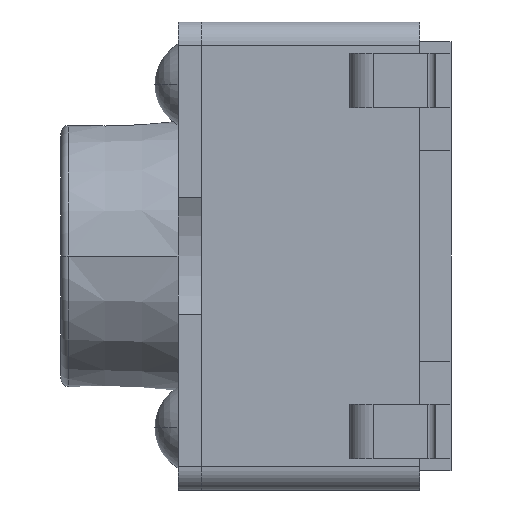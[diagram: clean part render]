
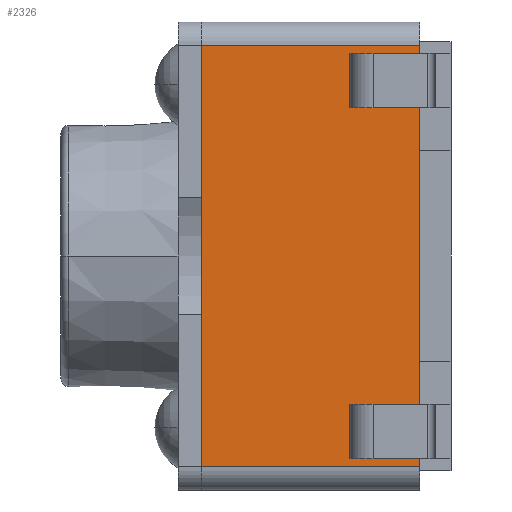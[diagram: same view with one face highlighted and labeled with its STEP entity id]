
A CAD part, left-side view. The second image highlights one B-rep face of the part: STEP entity #2326.
In plain terms, the highlighted planar face has unit normal (-1, 0, 0).
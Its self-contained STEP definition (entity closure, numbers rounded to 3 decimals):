
#50=DIRECTION('',(0.,0.,1.));
#51=VECTOR('',#50,5.4);
#52=CARTESIAN_POINT('',(-3.,0.4,-2.7));
#53=LINE('',#52,#51);
#157=DIRECTION('',(0.,-1.,0.));
#158=VECTOR('',#157,2.8);
#159=CARTESIAN_POINT('',(-3.,3.2,-2.7));
#160=LINE('',#159,#158);
#209=DIRECTION('',(0.,1.,0.));
#210=VECTOR('',#209,2.8);
#211=CARTESIAN_POINT('',(-3.,0.4,2.7));
#212=LINE('',#211,#210);
#217=DIRECTION('',(0.,-1.,0.));
#218=VECTOR('',#217,0.2);
#219=CARTESIAN_POINT('',(-3.,1.3,1.9));
#220=LINE('',#219,#218);
#221=DIRECTION('',(0.,-1.,0.));
#222=VECTOR('',#221,0.2);
#223=CARTESIAN_POINT('',(-3.,1.3,-2.6));
#224=LINE('',#223,#222);
#257=DIRECTION('',(0.,0.,-1.));
#258=VECTOR('',#257,5.4);
#259=CARTESIAN_POINT('',(-3.,3.2,2.7));
#260=LINE('',#259,#258);
#605=DIRECTION('',(0.,0.,-1.));
#606=VECTOR('',#605,0.7);
#607=CARTESIAN_POINT('',(-3.,1.1,2.6));
#608=LINE('',#607,#606);
#609=DIRECTION('',(0.,0.,-1.));
#610=VECTOR('',#609,0.7);
#611=CARTESIAN_POINT('',(-3.,1.1,-1.9));
#612=LINE('',#611,#610);
#721=DIRECTION('',(0.,0.,1.));
#722=VECTOR('',#721,0.7);
#723=CARTESIAN_POINT('',(-3.,1.3,-2.6));
#724=LINE('',#723,#722);
#773=DIRECTION('',(0.,-1.,0.));
#774=VECTOR('',#773,0.2);
#775=CARTESIAN_POINT('',(-3.,1.3,-1.9));
#776=LINE('',#775,#774);
#849=DIRECTION('',(0.,-1.,0.));
#850=VECTOR('',#849,0.2);
#851=CARTESIAN_POINT('',(-3.,1.3,2.6));
#852=LINE('',#851,#850);
#861=DIRECTION('',(0.,0.,1.));
#862=VECTOR('',#861,0.7);
#863=CARTESIAN_POINT('',(-3.,1.3,1.9));
#864=LINE('',#863,#862);
#1566=CARTESIAN_POINT('',(-3.,0.4,
-2.7));
#1568=VERTEX_POINT('',#1566);
#1569=CARTESIAN_POINT('',(-3.,0.4,
2.7));
#1570=VERTEX_POINT('',#1569);
#1611=CARTESIAN_POINT('',(-3.,3.2,
-2.7));
#1612=VERTEX_POINT('',#1611);
#1631=CARTESIAN_POINT('',(-3.,3.2,2.7));
#1632=VERTEX_POINT('',#1631);
#1633=CARTESIAN_POINT('',(-3.,1.3,1.9));
#1634=CARTESIAN_POINT('',(-3.,1.3,2.6));
#1635=VERTEX_POINT('',#1633);
#1636=VERTEX_POINT('',#1634);
#1637=CARTESIAN_POINT('',(-3.,1.3,
-2.6));
#1638=CARTESIAN_POINT('',(-3.,1.3,
-1.9));
#1639=VERTEX_POINT('',#1637);
#1640=VERTEX_POINT('',#1638);
#1857=CARTESIAN_POINT('',(-3.,1.1,1.9));
#1859=VERTEX_POINT('',#1857);
#1889=CARTESIAN_POINT('',(-3.,1.1,2.6));
#1891=VERTEX_POINT('',#1889);
#1921=CARTESIAN_POINT('',(-3.,1.1,
-1.9));
#1923=VERTEX_POINT('',#1921);
#1953=CARTESIAN_POINT('',(-3.,1.1,
-2.6));
#1955=VERTEX_POINT('',#1953);
#2294=CARTESIAN_POINT('',(-3.,0.,-2.7));
#2295=DIRECTION('',(-1.,0.,0.));
#2296=DIRECTION('',(0.,0.,1.));
#2297=AXIS2_PLACEMENT_3D('',#2294,#2295,#2296);
#2298=PLANE('',#2297);
#2299=ORIENTED_EDGE('',*,*,#2121,.F.);
#2300=ORIENTED_EDGE('',*,*,#2185,.F.);
#2302=ORIENTED_EDGE('',*,*,#2301,.F.);
#2303=ORIENTED_EDGE('',*,*,#2286,.F.);
#2304=EDGE_LOOP('',(#2299,#2300,#2302,#2303));
#2305=FACE_OUTER_BOUND('',#2304,.F.);
#2307=ORIENTED_EDGE('',*,*,#2306,.T.);
#2309=ORIENTED_EDGE('',*,*,#2308,.F.);
#2311=ORIENTED_EDGE('',*,*,#2310,.F.);
#2313=ORIENTED_EDGE('',*,*,#2312,.F.);
#2314=EDGE_LOOP('',(#2307,#2309,#2311,#2313));
#2315=FACE_BOUND('',#2314,.F.);
#2317=ORIENTED_EDGE('',*,*,#2316,.T.);
#2319=ORIENTED_EDGE('',*,*,#2318,.F.);
#2321=ORIENTED_EDGE('',*,*,#2320,.F.);
#2323=ORIENTED_EDGE('',*,*,#2322,.F.);
#2324=EDGE_LOOP('',(#2317,#2319,#2321,#2323));
#2325=FACE_BOUND('',#2324,.F.);
#2121=EDGE_CURVE('',#1568,#1570,#53,.T.);
#2185=EDGE_CURVE('',#1612,#1568,#160,.T.);
#2286=EDGE_CURVE('',#1570,#1632,#212,.T.);
#2301=EDGE_CURVE('',#1632,#1612,#260,.T.);
#2306=EDGE_CURVE('',#1635,#1859,#220,.T.);
#2308=EDGE_CURVE('',#1891,#1859,#608,.T.);
#2310=EDGE_CURVE('',#1636,#1891,#852,.T.);
#2312=EDGE_CURVE('',#1635,#1636,#864,.T.);
#2316=EDGE_CURVE('',#1639,#1955,#224,.T.);
#2318=EDGE_CURVE('',#1923,#1955,#612,.T.);
#2320=EDGE_CURVE('',#1640,#1923,#776,.T.);
#2322=EDGE_CURVE('',#1639,#1640,#724,.T.);
#2326=ADVANCED_FACE('',(#2305,#2315,#2325),#2298,.T.);
